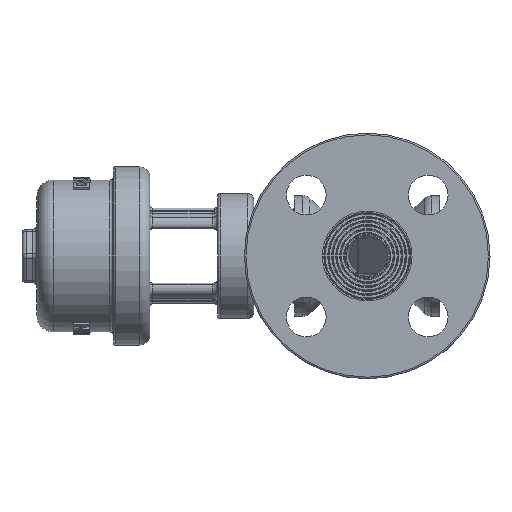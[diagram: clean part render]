
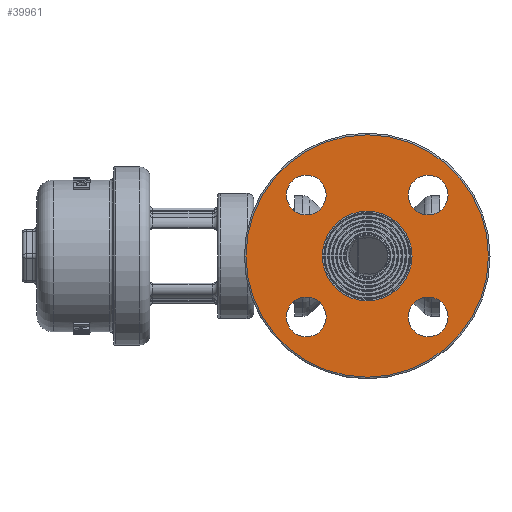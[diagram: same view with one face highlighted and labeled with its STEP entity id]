
A CAD part, left-side view. The second image highlights one B-rep face of the part: STEP entity #39961.
In plain terms, the highlighted planar face has unit normal (-1, 0, 0).
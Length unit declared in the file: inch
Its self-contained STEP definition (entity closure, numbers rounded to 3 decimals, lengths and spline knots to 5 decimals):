
#162 = EDGE_CURVE ( 'NONE', #44650, #44658, #56259, .T. ) ;
#261 = AXIS2_PLACEMENT_3D ( 'NONE', #3006, #3007, #3008 ) ;
#400 = AXIS2_PLACEMENT_3D ( 'NONE', #10345, #10346, #10347 ) ;
#403 = AXIS2_PLACEMENT_3D ( 'NONE', #10356, #10357, #10358 ) ;
#404 = AXIS2_PLACEMENT_3D ( 'NONE', #10362, #10363, #10364 ) ;
#416 = AXIS2_PLACEMENT_3D ( 'NONE', #10422, #10423, #10424 ) ;
#3006 = CARTESIAN_POINT ( 'NONE',  ( -2.8875, 0., 0. ) ) ;
#3007 = DIRECTION ( 'NONE',  ( -1., 0., 0. ) ) ;
#3008 = DIRECTION ( 'NONE',  ( 0., 1., 0. ) ) ;
#4778 = ORIENTED_EDGE ( 'NONE', *, *, #48916, .T. ) ;
#4800 = ORIENTED_EDGE ( 'NONE', *, *, #48920, .T. ) ;
#4836 = ORIENTED_EDGE ( 'NONE', *, *, #48910, .T. ) ;
#4853 = ORIENTED_EDGE ( 'NONE', *, *, #32395, .T. ) ;
#4873 = ORIENTED_EDGE ( 'NONE', *, *, #48569, .T. ) ;
#4890 = ORIENTED_EDGE ( 'NONE', *, *, #48914, .T. ) ;
#4898 = ORIENTED_EDGE ( 'NONE', *, *, #48918, .T. ) ;
#10345 = CARTESIAN_POINT ( 'NONE',  ( -2.8875, 1.14905, -1.14905 ) ) ;
#10346 = DIRECTION ( 'NONE',  ( 1., 0., 0. ) ) ;
#10347 = DIRECTION ( 'NONE',  ( 0., 1., 0. ) ) ;
#10356 = CARTESIAN_POINT ( 'NONE',  ( -2.8875, 1.14905, 1.14905 ) ) ;
#10357 = DIRECTION ( 'NONE',  ( 1., 0., 0. ) ) ;
#10358 = DIRECTION ( 'NONE',  ( 0., 1., 0. ) ) ;
#10362 = CARTESIAN_POINT ( 'NONE',  ( -2.8875, -1.14905, -1.14905 ) ) ;
#10363 = DIRECTION ( 'NONE',  ( 1., 0., 0. ) ) ;
#10364 = DIRECTION ( 'NONE',  ( 0., 1., 0. ) ) ;
#10422 = CARTESIAN_POINT ( 'NONE',  ( -2.8875, -1.14905, 1.14905 ) ) ;
#10423 = DIRECTION ( 'NONE',  ( 1., 0., 0. ) ) ;
#10424 = DIRECTION ( 'NONE',  ( 0., 1., 0. ) ) ;
#10685 = CIRCLE ( 'NONE', #400, 0.375 ) ;
#10686 = CIRCLE ( 'NONE', #403, 0.375 ) ;
#10690 = CIRCLE ( 'NONE', #404, 0.375 ) ;
#10728 = CIRCLE ( 'NONE', #416, 0.375 ) ;
#11481 = FACE_BOUND ( 'NONE', #47182, .T. ) ;
#11482 = FACE_OUTER_BOUND ( 'NONE', #47102, .T. ) ;
#11483 = FACE_BOUND ( 'NONE', #47336, .T. ) ;
#11485 = FACE_BOUND ( 'NONE', #47323, .T. ) ;
#11486 = FACE_BOUND ( 'NONE', #47267, .T. ) ;
#11487 = FACE_BOUND ( 'NONE', #47175, .T. ) ;
#11934 = DIRECTION ( 'NONE',  ( 1., 0., 0. ) ) ;
#11936 = PLANE ( 'NONE',  #24477 ) ;
#11938 = CARTESIAN_POINT ( 'NONE',  ( -2.8875, 0.845, 0. ) ) ;
#11940 = DIRECTION ( 'NONE',  ( 0., 1., 0. ) ) ;
#24477 = AXIS2_PLACEMENT_3D ( 'NONE', #11938, #11934, #11940 ) ;
#26357 = AXIS2_PLACEMENT_3D ( 'NONE', #34687, #34688, #34689 ) ;
#26429 = AXIS2_PLACEMENT_3D ( 'NONE', #35402, #35403, #35404 ) ;
#26430 = AXIS2_PLACEMENT_3D ( 'NONE', #35405, #35406, #35407 ) ;
#26431 = AXIS2_PLACEMENT_3D ( 'NONE', #35408, #35409, #35410 ) ;
#26432 = AXIS2_PLACEMENT_3D ( 'NONE', #35411, #35412, #35413 ) ;
#26433 = AXIS2_PLACEMENT_3D ( 'NONE', #35414, #35415, #35416 ) ;
#26434 = AXIS2_PLACEMENT_3D ( 'NONE', #35417, #35418, #35419 ) ;
#28740 = CARTESIAN_POINT ( 'NONE',  ( -2.8875, -2.2845, 0. ) ) ;
#28753 = CARTESIAN_POINT ( 'NONE',  ( -2.8875, 2.2845, 0. ) ) ;
#28800 = CARTESIAN_POINT ( 'NONE',  ( -2.8875, 1.52405, 1.14905 ) ) ;
#28805 = CARTESIAN_POINT ( 'NONE',  ( -2.8875, -1.52405, 1.14905 ) ) ;
#28810 = CARTESIAN_POINT ( 'NONE',  ( -2.8875, -0.77405, 1.14905 ) ) ;
#28811 = CARTESIAN_POINT ( 'NONE',  ( -2.8875, -1.52405, -1.14905 ) ) ;
#28816 = CARTESIAN_POINT ( 'NONE',  ( -2.8875, -0.77405, -1.14905 ) ) ;
#28821 = CARTESIAN_POINT ( 'NONE',  ( -2.8875, 1.52405, -1.14905 ) ) ;
#28823 = CARTESIAN_POINT ( 'NONE',  ( -2.8875, 0.77405, -1.14905 ) ) ;
#28878 = CARTESIAN_POINT ( 'NONE',  ( -2.8875, 0.77405, 1.14905 ) ) ;
#28920 = CARTESIAN_POINT ( 'NONE',  ( -2.8875, -0.845, 0. ) ) ;
#28921 = CARTESIAN_POINT ( 'NONE',  ( -2.8875, 0.845, 0. ) ) ;
#30976 = CIRCLE ( 'NONE', #26357, 0.845 ) ;
#31143 = CIRCLE ( 'NONE', #26429, 2.2845 ) ;
#31144 = CIRCLE ( 'NONE', #26430, 0.375 ) ;
#31145 = CIRCLE ( 'NONE', #26431, 0.375 ) ;
#31146 = CIRCLE ( 'NONE', #26432, 0.845 ) ;
#31147 = CIRCLE ( 'NONE', #26433, 0.375 ) ;
#31148 = CIRCLE ( 'NONE', #26434, 0.375 ) ;
#32388 = EDGE_CURVE ( 'NONE', #44700, #44699, #10685, .T. ) ;
#32395 = EDGE_CURVE ( 'NONE', #44733, #44686, #10686, .T. ) ;
#32402 = EDGE_CURVE ( 'NONE', #44693, #44696, #10690, .T. ) ;
#32457 = EDGE_CURVE ( 'NONE', #44689, #44692, #10728, .T. ) ;
#34687 = CARTESIAN_POINT ( 'NONE',  ( -2.8875, 0., 0. ) ) ;
#34688 = DIRECTION ( 'NONE',  ( 1., 0., 0. ) ) ;
#34689 = DIRECTION ( 'NONE',  ( 0., 1., 0. ) ) ;
#35402 = CARTESIAN_POINT ( 'NONE',  ( -2.8875, 0., 0. ) ) ;
#35403 = DIRECTION ( 'NONE',  ( -1., 0., 0. ) ) ;
#35404 = DIRECTION ( 'NONE',  ( 0., 1., 0. ) ) ;
#35405 = CARTESIAN_POINT ( 'NONE',  ( -2.8875, -1.14905, 1.14905 ) ) ;
#35406 = DIRECTION ( 'NONE',  ( 1., 0., 0. ) ) ;
#35407 = DIRECTION ( 'NONE',  ( 0., 1., 0. ) ) ;
#35408 = CARTESIAN_POINT ( 'NONE',  ( -2.8875, 1.14905, -1.14905 ) ) ;
#35409 = DIRECTION ( 'NONE',  ( 1., 0., 0. ) ) ;
#35410 = DIRECTION ( 'NONE',  ( 0., 1., 0. ) ) ;
#35411 = CARTESIAN_POINT ( 'NONE',  ( -2.8875, 0., 0. ) ) ;
#35412 = DIRECTION ( 'NONE',  ( 1., 0., 0. ) ) ;
#35413 = DIRECTION ( 'NONE',  ( 0., 1., 0. ) ) ;
#35414 = CARTESIAN_POINT ( 'NONE',  ( -2.8875, -1.14905, -1.14905 ) ) ;
#35415 = DIRECTION ( 'NONE',  ( 1., 0., 0. ) ) ;
#35416 = DIRECTION ( 'NONE',  ( 0., 1., 0. ) ) ;
#35417 = CARTESIAN_POINT ( 'NONE',  ( -2.8875, 1.14905, 1.14905 ) ) ;
#35418 = DIRECTION ( 'NONE',  ( 1., 0., 0. ) ) ;
#35419 = DIRECTION ( 'NONE',  ( 0., 1., 0. ) ) ;
#38081 = ORIENTED_EDGE ( 'NONE', *, *, #32402, .T. ) ;
#38157 = ORIENTED_EDGE ( 'NONE', *, *, #48912, .T. ) ;
#38257 = ORIENTED_EDGE ( 'NONE', *, *, #32388, .T. ) ;
#38282 = ORIENTED_EDGE ( 'NONE', *, *, #162, .T. ) ;
#38289 = ORIENTED_EDGE ( 'NONE', *, *, #32457, .T. ) ;
#39961 = ADVANCED_FACE ( 'NONE', ( #11482, #11481, #11486, #11483, #11487, #11485 ), #11936, .F. ) ;
#44650 = VERTEX_POINT ( 'NONE', #28740 ) ;
#44658 = VERTEX_POINT ( 'NONE', #28753 ) ;
#44686 = VERTEX_POINT ( 'NONE', #28800 ) ;
#44689 = VERTEX_POINT ( 'NONE', #28805 ) ;
#44692 = VERTEX_POINT ( 'NONE', #28810 ) ;
#44693 = VERTEX_POINT ( 'NONE', #28811 ) ;
#44696 = VERTEX_POINT ( 'NONE', #28816 ) ;
#44699 = VERTEX_POINT ( 'NONE', #28821 ) ;
#44700 = VERTEX_POINT ( 'NONE', #28823 ) ;
#44733 = VERTEX_POINT ( 'NONE', #28878 ) ;
#44758 = VERTEX_POINT ( 'NONE', #28920 ) ;
#44759 = VERTEX_POINT ( 'NONE', #28921 ) ;
#47102 = EDGE_LOOP ( 'NONE', ( #4836, #38282 ) ) ;
#47175 = EDGE_LOOP ( 'NONE', ( #38081, #4898 ) ) ;
#47182 = EDGE_LOOP ( 'NONE', ( #38289, #38157 ) ) ;
#47267 = EDGE_LOOP ( 'NONE', ( #38257, #4890 ) ) ;
#47323 = EDGE_LOOP ( 'NONE', ( #4853, #4800 ) ) ;
#47336 = EDGE_LOOP ( 'NONE', ( #4873, #4778 ) ) ;
#48569 = EDGE_CURVE ( 'NONE', #44759, #44758, #30976, .T. ) ;
#48910 = EDGE_CURVE ( 'NONE', #44658, #44650, #31143, .T. ) ;
#48912 = EDGE_CURVE ( 'NONE', #44692, #44689, #31144, .T. ) ;
#48914 = EDGE_CURVE ( 'NONE', #44699, #44700, #31145, .T. ) ;
#48916 = EDGE_CURVE ( 'NONE', #44758, #44759, #31146, .T. ) ;
#48918 = EDGE_CURVE ( 'NONE', #44696, #44693, #31147, .T. ) ;
#48920 = EDGE_CURVE ( 'NONE', #44686, #44733, #31148, .T. ) ;
#56259 = CIRCLE ( 'NONE', #261, 2.2845 ) ;
